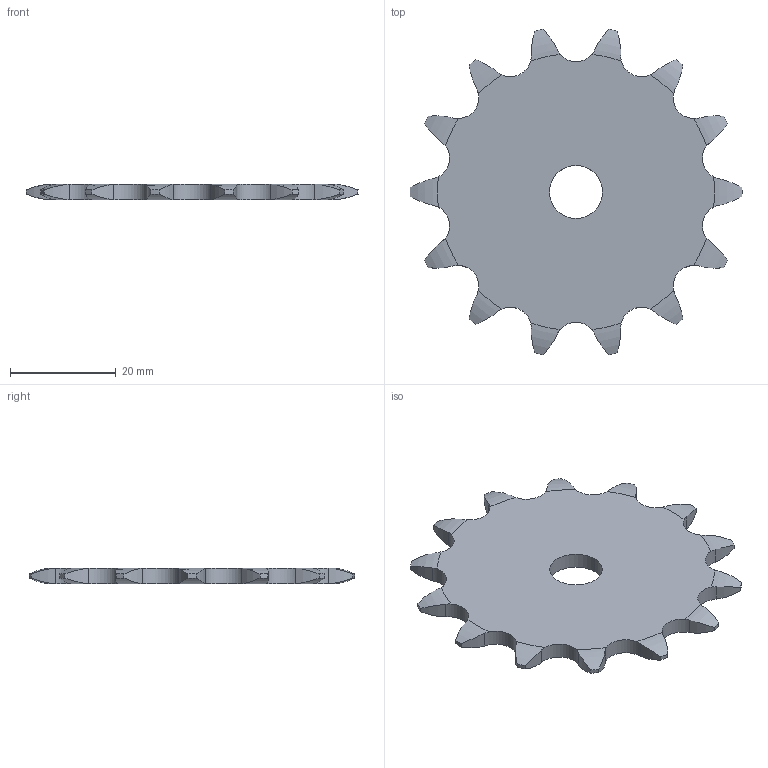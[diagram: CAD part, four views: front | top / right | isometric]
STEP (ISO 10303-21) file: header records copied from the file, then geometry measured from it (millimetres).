
FILE_DESCRIPTION((''),'2;1');
FILE_NAME('500-201-0014_PRT','2021-02-12T',('Brieden'),('Brieden'),'PRO/ENGINEER BY PARAMETRIC TECHNOLOGY CORPORATION, 2010160','PRO/ENGINEER BY PARAMETRIC TECHNOLOGY CORPORATION, 2010160','');
FILE_SCHEMA(('AUTOMOTIVE_DESIGN { 1 0 10303 214 1 1 1 1 }'));
Length unit declared in the file: millimetre
Products named in the file (1): 500-201-0014_PRT
Bounding box: 62.8 x 61.57 x 3 mm (x, y, z)
Volume: 6659.3 mm3; surface area: 5317.7 mm2
Topology: 1 solids, 1 shells, 88 faces, 258 edges, 172 vertices
Faces by surface type: cylinder 58, torus 28, plane 2
Entity records: 4144 total; most frequent: CARTESIAN_POINT 1091, ORIENTED_EDGE 516, DIRECTION 410, PRESENTATION_STYLE_ASSIGNMENT 259, STYLED_ITEM 259, CURVE_STYLE 258, EDGE_CURVE 258, AXIS2_PLACEMENT_3D 176
